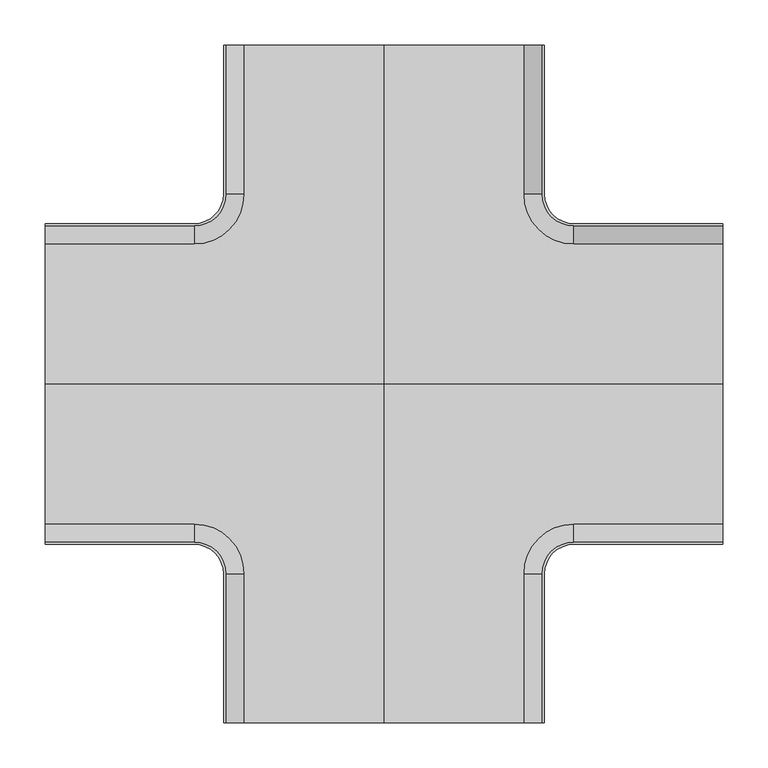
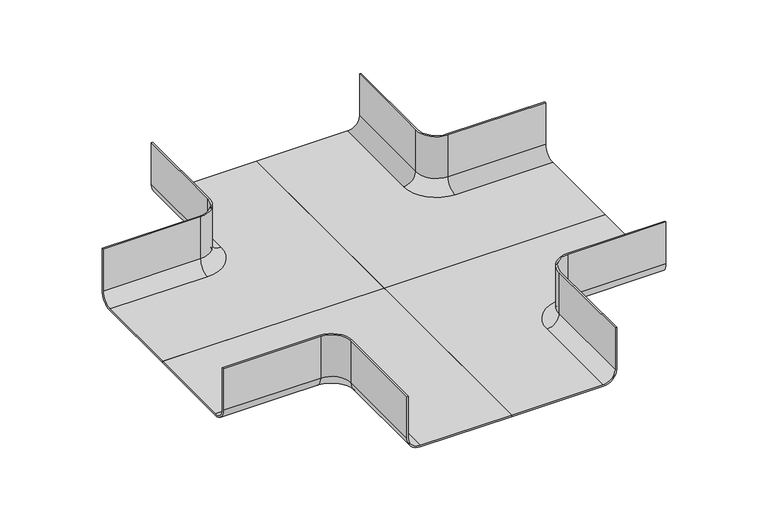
"""IFC4 building model written with IfcOpenShell, lengths in millimetres: cable carrier fitting geometry, CCT_Hyperline_FBTR-CRS_Ответвитель крестообразный пластиковый : Ответвитель крестообразный пластиковый."""

from ifc_helpers import new_model, si_unit, point, frame, origin, place, context, project, spatial, polyline, circle_curve, ellipse_curve, trimmed, source, transform, mapped, element, save
from ifc_brep_helpers import plane_surface, cylinder_surface, revolved_surface, advanced_brep


def cable_carrier_fitting_25f01132(model_context):
    return source(origin(), model_context, "Body", "AdvancedBrep", [
        advanced_brep(
        [(-375.0, -177.54, -25.0), (-375.0, -177.54, 50.0), (-375.0, -175.0, 50.0), (-375.0, -175.0, -25.0), (-375.0, -155.0, -45.0), (-375.0, 0.0, -45.0), (-375.0, 0.0, -47.54), (-375.0, -155.0, -47.54), (-210.0, -155.0, -47.54), (-210.0, -177.54, -25.0), (-210.0, -175.0, -25.0), (-210.0, -155.0, -45.0), (-210.0, -175.0, 50.0), (-210.0, -177.54, 50.0), (-177.54, -210.0, 50.0), (-177.54, -375.0, 50.0), (-175.0, -375.0, 50.0), (-175.0, -210.0, 50.0), (-155.0, -210.0, -47.54), (-177.54, -210.0, -25.0), (-175.0, -210.0, -25.0), (-155.0, -210.0, -45.0), (0.0, -375.0, -47.54), (0.0, -375.0, -45.0), (-155.0, -375.0, -45.0), (-175.0, -375.0, -25.0), (-177.54, -375.0, -25.0), (-155.0, -375.0, -47.54), (0.0, 0.0, -45.0), (0.0, 0.0, -47.54)],
        [
            (0, 1),
            (1, 2),
            (2, 3),
            (3, 4, circle_curve(frame((-375.0, -155.0, -25.0), z_axis=(1.0, 0.0, 0.0), x_axis=(0.0, -1.0, 0.0)), 20.0)),
            (4, 5),
            (5, 6),
            (6, 7),
            (7, 0, circle_curve(frame((-375.0, -155.0, -25.0), z_axis=(-1.0, 0.0, 0.0), x_axis=(0.0, -1.0, 0.0)), 22.54)),
            (7, 8),
            (8, 9, circle_curve(frame((-210.0, -155.0, -25.0), z_axis=(-1.0, 0.0, 0.0), x_axis=(0.0, -1.0, 0.0)), 22.54)),
            (9, 0),
            (3, 10),
            (10, 11, circle_curve(frame((-210.0, -155.0, -25.0), z_axis=(1.0, 0.0, 0.0), x_axis=(0.0, -1.0, 0.0)), 20.0)),
            (11, 4),
            (2, 12),
            (12, 10),
            (1, 13),
            (13, 14, circle_curve(frame((-210.0, -210.0, 50.0), z_axis=(0.0, 0.0, -1.0), x_axis=(0.0, 1.0, 0.0)), 32.46)),
            (14, 15),
            (15, 16),
            (16, 17),
            (17, 12, circle_curve(frame((-210.0, -210.0, 50.0), z_axis=(0.0, 0.0, 1.0), x_axis=(0.0, 1.0, 0.0)), 35.0)),
            (9, 13),
            (8, 18, circle_curve(frame((-210.0, -210.0, -47.54), z_axis=(0.0, 0.0, -1.0), x_axis=(0.0, 1.0, 0.0)), 55.0)),
            (18, 19, circle_curve(frame((-155.0, -210.0, -25.0), z_axis=(0.0, 1.0, 0.0), x_axis=(-1.0, 0.0, 0.0)), 22.54)),
            (19, 9, circle_curve(frame((-210.0, -210.0, -25.0), z_axis=(0.0, 0.0, 1.0), x_axis=(0.0, 1.0, 0.0)), 32.46)),
            (10, 20, circle_curve(frame((-210.0, -210.0, -25.0), z_axis=(0.0, 0.0, -1.0), x_axis=(0.0, 1.0, 0.0)), 35.0)),
            (20, 21, circle_curve(frame((-155.0, -210.0, -25.0), z_axis=(0.0, -1.0, 0.0), x_axis=(-1.0, 0.0, 0.0)), 20.0)),
            (21, 11, circle_curve(frame((-210.0, -210.0, -45.0), z_axis=(0.0, 0.0, 1.0), x_axis=(0.0, 1.0, 0.0)), 55.0)),
            (17, 20),
            (19, 14),
            (22, 23),
            (23, 24),
            (24, 25, circle_curve(frame((-155.0, -375.0, -25.0), z_axis=(0.0, 1.0, 0.0), x_axis=(-1.0, 0.0, 0.0)), 20.0)),
            (25, 16),
            (15, 26),
            (26, 27, circle_curve(frame((-155.0, -375.0, -25.0), z_axis=(0.0, -1.0, 0.0), x_axis=(-1.0, 0.0, 0.0)), 22.54)),
            (27, 22),
            (26, 19),
            (18, 27),
            (20, 25),
            (24, 21),
            (23, 28),
            (28, 5),
            (6, 29),
            (29, 22),
            (28, 29),
        ],
        [
            plane_surface(frame((-375.0, -175.0, 0.0), z_axis=(-1.0, 0.0, 0.0), x_axis=(0.0, 0.0, 1.0))),
            cylinder_surface(frame((-375.0, -155.0, -25.0), z_axis=(-1.0, 0.0, 0.0), x_axis=(0.0, -1.0, 0.0)), 22.54),
            revolved_surface(polyline([(-210.0, -175.0, -25.0), (-375.0, -175.0, -25.0)]), (-375.0, -155.0, -25.0), (1.0, 0.0, 0.0)),
            plane_surface(frame((-375.0, -175.0, -25.0), z_axis=(0.0, 1.0, 0.0), x_axis=(1.0, 0.0, 0.0))),
            plane_surface(frame((-375.0, -175.0, 50.0), z_axis=(0.0, 0.0, 1.0), x_axis=(1.0, 0.0, 0.0))),
            plane_surface(frame((-375.0, -177.54, 50.0), z_axis=(0.0, -1.0, 0.0), x_axis=(1.0, 0.0, 0.0))),
            revolved_surface(trimmed(ellipse_curve(frame((-210.0, -155.0, -25.0), z_axis=(1.0, 0.0, 0.0), x_axis=(0.0, -1.0, 0.0)), 22.54, 22.54), [point((-210.0, -177.54, -25.0))], [point((-210.0, -155.0, -47.54))], True, "CARTESIAN"), (-210.0, -210.0, 0.0), (0.0, 0.0, 1.0)),
            revolved_surface(trimmed(ellipse_curve(frame((-210.0, -155.0, -25.0), z_axis=(-1.0, 0.0, 0.0), x_axis=(0.0, -1.0, 0.0)), 20.0, 20.0), [point((-210.0, -155.0, -45.0))], [point((-210.0, -175.0, -25.0))], True, "CARTESIAN"), (-210.0, -210.0, 0.0), (0.0, 0.0, 1.0)),
            cylinder_surface(frame((-210.0, -210.0, 0.0), z_axis=(0.0, 0.0, 1.0), x_axis=(0.0, 1.0, 0.0)), 35.0),
            revolved_surface(polyline([(-210.0, -177.54, 50.0), (-210.0, -177.54, -25.0)]), (-210.0, -210.0, 0.0), (0.0, 0.0, 1.0)),
            plane_surface(frame((-175.0, -375.0, 0.0), z_axis=(0.0, -1.0, 0.0), x_axis=(0.0, 0.0, 1.0))),
            cylinder_surface(frame((-155.0, -210.0, -25.0), z_axis=(0.0, 1.0, 0.0), x_axis=(-1.0, 0.0, 0.0)), 22.54),
            revolved_surface(polyline([(-175.0, -375.0, -25.0), (-175.0, -210.0, -25.0)]), (-155.0, -210.0, -25.0), (0.0, -1.0, 0.0)),
            plane_surface(frame((-175.0, -210.0, -25.0), z_axis=(1.0, 0.0, 0.0), x_axis=(0.0, -1.0, 0.0))),
            plane_surface(frame((-177.54, -210.0, 50.0), z_axis=(-1.0, 0.0, 0.0), x_axis=(0.0, -1.0, 0.0))),
            plane_surface(frame((0.0, -210.0, -45.0), z_axis=(0.0, 0.0, 1.0), x_axis=(0.0, 1.0, 0.0))),
            plane_surface(frame((0.0, -210.0, -47.54), z_axis=(0.0, 0.0, -1.0), x_axis=(0.0, -1.0, 0.0))),
            plane_surface(frame((-210.0, 0.0, -45.0), z_axis=(0.0, 1.0, 0.0), x_axis=(0.0, 0.0, -1.0))),
            plane_surface(frame((0.0, 0.0, -45.0), z_axis=(1.0, 0.0, 0.0), x_axis=(0.0, 0.0, -1.0))),
        ],
        [
            (0, [[1, 2, 3, 4, 5, 6, 7, 8]]),
            (1, [[9, 10, 11, -8]]),
            (2, [[12, 13, 14, -4]]),
            (3, [[15, 16, -12, -3]]),
            (4, [[17, 18, 19, 20, 21, 22, -15, -2]]),
            (5, [[-11, 23, -17, -1]]),
            (6, [[24, 25, 26, -10]]),
            (7, [[-13, 27, 28, 29]]),
            (8, [[-22, 30, -27, -16]]),
            (9, [[-23, -26, 31, -18]]),
            (10, [[32, 33, 34, 35, -20, 36, 37, 38]]),
            (11, [[-37, 39, -25, 40]]),
            (12, [[-28, 41, -34, 42]]),
            (13, [[-35, -41, -30, -21]]),
            (14, [[-31, -39, -36, -19]]),
            (15, [[43, 44, -5, -14, -29, -42, -33]]),
            (16, [[45, 46, -38, -40, -24, -9, -7]]),
            (17, [[47, -45, -6, -44]]),
            (18, [[-32, -46, -47, -43]]),
        ],
    ),
        advanced_brep(
        [(375.0, -177.54, -25.0), (375.0, -155.0, -47.54), (375.0, 0.0, -47.54), (375.0, 0.0, -45.0), (375.0, -155.0, -45.0), (375.0, -175.0, -25.0), (375.0, -175.0, 50.0), (375.0, -177.54, 50.0), (210.0, -177.54, -25.0), (210.0, -155.0, -47.54), (210.0, -155.0, -45.0), (210.0, -175.0, -25.0), (210.0, -175.0, 50.0), (175.0, -210.0, 50.0), (175.0, -375.0, 50.0), (177.54, -375.0, 50.0), (177.54, -210.0, 50.0), (210.0, -177.54, 50.0), (177.54, -210.0, -25.0), (155.0, -210.0, -47.54), (155.0, -210.0, -45.0), (175.0, -210.0, -25.0), (0.0, -375.0, -47.54), (155.0, -375.0, -47.54), (177.54, -375.0, -25.0), (175.0, -375.0, -25.0), (155.0, -375.0, -45.0), (0.0, -375.0, -45.0), (0.0, 0.0, -45.0), (0.0, 0.0, -47.54)],
        [
            (0, 1, circle_curve(frame((375.0, -155.0, -25.0), z_axis=(1.0, 0.0, 0.0), x_axis=(0.0, -1.0, 0.0)), 22.54)),
            (1, 2),
            (2, 3),
            (3, 4),
            (4, 5, circle_curve(frame((375.0, -155.0, -25.0), z_axis=(-1.0, 0.0, 0.0), x_axis=(0.0, -1.0, 0.0)), 20.0)),
            (5, 6),
            (6, 7),
            (7, 0),
            (0, 8),
            (8, 9, circle_curve(frame((210.0, -155.0, -25.0), z_axis=(1.0, 0.0, 0.0), x_axis=(0.0, -1.0, 0.0)), 22.54)),
            (9, 1),
            (4, 10),
            (10, 11, circle_curve(frame((210.0, -155.0, -25.0), z_axis=(-1.0, 0.0, 0.0), x_axis=(0.0, -1.0, 0.0)), 20.0)),
            (11, 5),
            (11, 12),
            (12, 6),
            (12, 13, circle_curve(frame((210.0, -210.0, 50.0), z_axis=(0.0, 0.0, 1.0), x_axis=(0.0, 1.0, 0.0)), 35.0)),
            (13, 14),
            (14, 15),
            (15, 16),
            (16, 17, circle_curve(frame((210.0, -210.0, 50.0), z_axis=(0.0, 0.0, -1.0), x_axis=(0.0, 1.0, 0.0)), 32.46)),
            (17, 7),
            (17, 8),
            (8, 18, circle_curve(frame((210.0, -210.0, -25.0), z_axis=(0.0, 0.0, 1.0), x_axis=(0.0, 1.0, 0.0)), 32.46)),
            (18, 19, circle_curve(frame((155.0, -210.0, -25.0), z_axis=(0.0, 1.0, 0.0), x_axis=(1.0, 0.0, 0.0)), 22.54)),
            (19, 9, circle_curve(frame((210.0, -210.0, -47.54), z_axis=(0.0, 0.0, -1.0), x_axis=(0.0, 1.0, 0.0)), 55.0)),
            (10, 20, circle_curve(frame((210.0, -210.0, -45.0), z_axis=(0.0, 0.0, 1.0), x_axis=(0.0, 1.0, 0.0)), 55.0)),
            (20, 21, circle_curve(frame((155.0, -210.0, -25.0), z_axis=(0.0, -1.0, 0.0), x_axis=(1.0, 0.0, 0.0)), 20.0)),
            (21, 11, circle_curve(frame((210.0, -210.0, -25.0), z_axis=(0.0, 0.0, -1.0), x_axis=(0.0, 1.0, 0.0)), 35.0)),
            (21, 13),
            (16, 18),
            (22, 23),
            (23, 24, circle_curve(frame((155.0, -375.0, -25.0), z_axis=(0.0, -1.0, 0.0), x_axis=(1.0, 0.0, 0.0)), 22.54)),
            (24, 15),
            (14, 25),
            (25, 26, circle_curve(frame((155.0, -375.0, -25.0), z_axis=(0.0, 1.0, 0.0), x_axis=(1.0, 0.0, 0.0)), 20.0)),
            (26, 27),
            (27, 22),
            (23, 19),
            (18, 24),
            (20, 26),
            (25, 21),
            (3, 28),
            (28, 27),
            (22, 29),
            (29, 2),
            (29, 28),
        ],
        [
            plane_surface(frame((375.0, -175.0, 0.0), z_axis=(1.0, 0.0, 0.0), x_axis=(0.0, 0.0, 1.0))),
            cylinder_surface(frame((375.0, -155.0, -25.0), z_axis=(1.0, 0.0, 0.0), x_axis=(0.0, -1.0, 0.0)), 22.54),
            revolved_surface(polyline([(210.0, -175.0, -25.0), (375.0, -175.0, -25.0)]), (375.0, -155.0, -25.0), (-1.0, 0.0, 0.0)),
            plane_surface(frame((375.0, -175.0, -25.0), z_axis=(0.0, 1.0, 0.0), x_axis=(-1.0, 0.0, 0.0))),
            plane_surface(frame((375.0, -175.0, 50.0), z_axis=(0.0, 0.0, 1.0), x_axis=(-1.0, 0.0, 0.0))),
            plane_surface(frame((375.0, -177.54, 50.0), z_axis=(0.0, -1.0, 0.0), x_axis=(-1.0, 0.0, 0.0))),
            revolved_surface(trimmed(ellipse_curve(frame((210.0, -155.0, -25.0), z_axis=(1.0, 0.0, 0.0), x_axis=(0.0, -1.0, 0.0)), 22.54, 22.54), [point((210.0, -177.54, -25.0))], [point((210.0, -155.0, -47.54))], True, "CARTESIAN"), (210.0, -210.0, 0.0), (0.0, 0.0, 1.0)),
            revolved_surface(trimmed(ellipse_curve(frame((210.0, -155.0, -25.0), z_axis=(-1.0, 0.0, 0.0), x_axis=(0.0, -1.0, 0.0)), 20.0, 20.0), [point((210.0, -155.0, -45.0))], [point((210.0, -175.0, -25.0))], True, "CARTESIAN"), (210.0, -210.0, 0.0), (0.0, 0.0, 1.0)),
            cylinder_surface(frame((210.0, -210.0, 0.0), z_axis=(0.0, 0.0, 1.0), x_axis=(0.0, 1.0, 0.0)), 35.0),
            revolved_surface(polyline([(210.0, -177.54, 50.0), (210.0, -177.54, -25.0)]), (210.0, -210.0, 0.0), (0.0, 0.0, 1.0)),
            plane_surface(frame((175.0, -375.0, 0.0), z_axis=(0.0, -1.0, 0.0), x_axis=(0.0, 0.0, 1.0))),
            cylinder_surface(frame((155.0, -210.0, -25.0), z_axis=(0.0, 1.0, 0.0), x_axis=(1.0, 0.0, 0.0)), 22.54),
            revolved_surface(polyline([(175.0, -375.0, -25.0), (175.0, -210.0, -25.0)]), (155.0, -210.0, -25.0), (0.0, -1.0, 0.0)),
            plane_surface(frame((175.0, -210.0, -25.0), z_axis=(-1.0, 0.0, 0.0), x_axis=(0.0, -1.0, 0.0))),
            plane_surface(frame((177.54, -210.0, 50.0), z_axis=(1.0, 0.0, 0.0), x_axis=(0.0, -1.0, 0.0))),
            plane_surface(frame((0.0, -210.0, -45.0), z_axis=(0.0, 0.0, 1.0), x_axis=(0.0, 1.0, 0.0))),
            plane_surface(frame((0.0, -210.0, -47.54), z_axis=(0.0, 0.0, -1.0), x_axis=(0.0, -1.0, 0.0))),
            plane_surface(frame((210.0, 0.0, -45.0), z_axis=(0.0, 1.0, 0.0), x_axis=(0.0, 0.0, -1.0))),
            plane_surface(frame((0.0, 0.0, -45.0), z_axis=(-1.0, 0.0, 0.0), x_axis=(0.0, 0.0, -1.0))),
        ],
        [
            (0, [[1, 2, 3, 4, 5, 6, 7, 8]]),
            (1, [[-1, 9, 10, 11]]),
            (2, [[-5, 12, 13, 14]]),
            (3, [[-6, -14, 15, 16]]),
            (4, [[-7, -16, 17, 18, 19, 20, 21, 22]]),
            (5, [[-8, -22, 23, -9]]),
            (6, [[-10, 24, 25, 26]]),
            (7, [[27, 28, 29, -13]]),
            (8, [[-15, -29, 30, -17]]),
            (9, [[-21, 31, -24, -23]]),
            (10, [[32, 33, 34, -19, 35, 36, 37, 38]]),
            (11, [[39, -25, 40, -33]]),
            (12, [[41, -36, 42, -28]]),
            (13, [[-18, -30, -42, -35]]),
            (14, [[-20, -34, -40, -31]]),
            (15, [[-37, -41, -27, -12, -4, 43, 44]]),
            (16, [[-2, -11, -26, -39, -32, 45, 46]]),
            (17, [[-43, -3, -46, 47]]),
            (18, [[-44, -47, -45, -38]]),
        ],
    ),
        advanced_brep(
        [(-375.0, 177.54, -25.0), (-375.0, 155.0, -47.54), (-375.0, 0.0, -47.54), (-375.0, 0.0, -45.0), (-375.0, 155.0, -45.0), (-375.0, 175.0, -25.0), (-375.0, 175.0, 50.0), (-375.0, 177.54, 50.0), (-210.0, 177.54, -25.0), (-210.0, 155.0, -47.54), (-210.0, 155.0, -45.0), (-210.0, 175.0, -25.0), (-210.0, 175.0, 50.0), (-175.0, 210.0, 50.0), (-175.0, 375.0, 50.0), (-177.54, 375.0, 50.0), (-177.54, 210.0, 50.0), (-210.0, 177.54, 50.0), (-177.54, 210.0, -25.0), (-155.0, 210.0, -47.54), (-155.0, 210.0, -45.0), (-175.0, 210.0, -25.0), (0.0, 375.0, -47.54), (-155.0, 375.0, -47.54), (-177.54, 375.0, -25.0), (-175.0, 375.0, -25.0), (-155.0, 375.0, -45.0), (0.0, 375.0, -45.0), (0.0, 0.0, -45.0), (0.0, 0.0, -47.54)],
        [
            (0, 1, circle_curve(frame((-375.0, 155.0, -25.0), z_axis=(-1.0, 0.0, 0.0), x_axis=(0.0, 1.0, 0.0)), 22.54)),
            (1, 2),
            (2, 3),
            (3, 4),
            (4, 5, circle_curve(frame((-375.0, 155.0, -25.0), z_axis=(1.0, 0.0, 0.0), x_axis=(0.0, 1.0, 0.0)), 20.0)),
            (5, 6),
            (6, 7),
            (7, 0),
            (0, 8),
            (8, 9, circle_curve(frame((-210.0, 155.0, -25.0), z_axis=(-1.0, 0.0, 0.0), x_axis=(0.0, 1.0, 0.0)), 22.54)),
            (9, 1),
            (4, 10),
            (10, 11, circle_curve(frame((-210.0, 155.0, -25.0), z_axis=(1.0, 0.0, 0.0), x_axis=(0.0, 1.0, 0.0)), 20.0)),
            (11, 5),
            (11, 12),
            (12, 6),
            (12, 13, circle_curve(frame((-210.0, 210.0, 50.0), z_axis=(0.0, 0.0, 1.0), x_axis=(0.0, -1.0, 0.0)), 35.0)),
            (13, 14),
            (14, 15),
            (15, 16),
            (16, 17, circle_curve(frame((-210.0, 210.0, 50.0), z_axis=(0.0, 0.0, -1.0), x_axis=(0.0, -1.0, 0.0)), 32.46)),
            (17, 7),
            (17, 8),
            (8, 18, circle_curve(frame((-210.0, 210.0, -25.0), z_axis=(0.0, 0.0, 1.0), x_axis=(0.0, -1.0, 0.0)), 32.46)),
            (18, 19, circle_curve(frame((-155.0, 210.0, -25.0), z_axis=(0.0, -1.0, 0.0), x_axis=(-1.0, 0.0, 0.0)), 22.54)),
            (19, 9, circle_curve(frame((-210.0, 210.0, -47.54), z_axis=(0.0, 0.0, -1.0), x_axis=(0.0, -1.0, 0.0)), 55.0)),
            (10, 20, circle_curve(frame((-210.0, 210.0, -45.0), z_axis=(0.0, 0.0, 1.0), x_axis=(0.0, -1.0, 0.0)), 55.0)),
            (20, 21, circle_curve(frame((-155.0, 210.0, -25.0), z_axis=(0.0, 1.0, 0.0), x_axis=(-1.0, 0.0, 0.0)), 20.0)),
            (21, 11, circle_curve(frame((-210.0, 210.0, -25.0), z_axis=(0.0, 0.0, -1.0), x_axis=(0.0, -1.0, 0.0)), 35.0)),
            (21, 13),
            (16, 18),
            (22, 23),
            (23, 24, circle_curve(frame((-155.0, 375.0, -25.0), z_axis=(0.0, 1.0, 0.0), x_axis=(-1.0, 0.0, 0.0)), 22.54)),
            (24, 15),
            (14, 25),
            (25, 26, circle_curve(frame((-155.0, 375.0, -25.0), z_axis=(0.0, -1.0, 0.0), x_axis=(-1.0, 0.0, 0.0)), 20.0)),
            (26, 27),
            (27, 22),
            (23, 19),
            (18, 24),
            (20, 26),
            (25, 21),
            (3, 28),
            (28, 27),
            (22, 29),
            (29, 2),
            (29, 28),
        ],
        [
            plane_surface(frame((-375.0, 175.0, 0.0), z_axis=(-1.0, 0.0, 0.0), x_axis=(0.0, 0.0, 1.0))),
            cylinder_surface(frame((-375.0, 155.0, -25.0), z_axis=(-1.0, 0.0, 0.0), x_axis=(0.0, 1.0, 0.0)), 22.54),
            revolved_surface(polyline([(-210.0, 175.0, -25.0), (-375.0, 175.0, -25.0)]), (-375.0, 155.0, -25.0), (1.0, 0.0, 0.0)),
            plane_surface(frame((-375.0, 175.0, -25.0), z_axis=(0.0, -1.0, 0.0), x_axis=(1.0, 0.0, 0.0))),
            plane_surface(frame((-375.0, 175.0, 50.0), z_axis=(0.0, 0.0, 1.0), x_axis=(1.0, 0.0, 0.0))),
            plane_surface(frame((-375.0, 177.54, 50.0), z_axis=(0.0, 1.0, 0.0), x_axis=(1.0, 0.0, 0.0))),
            revolved_surface(trimmed(ellipse_curve(frame((-210.0, 155.0, -25.0), z_axis=(-1.0, 0.0, 0.0), x_axis=(0.0, 1.0, 0.0)), 22.54, 22.54), [point((-210.0, 177.54, -25.0))], [point((-210.0, 155.0, -47.54))], True, "CARTESIAN"), (-210.0, 210.0, 0.0), (0.0, 0.0, 1.0)),
            revolved_surface(trimmed(ellipse_curve(frame((-210.0, 155.0, -25.0), z_axis=(1.0, 0.0, 0.0), x_axis=(0.0, 1.0, 0.0)), 20.0, 20.0), [point((-210.0, 155.0, -45.0))], [point((-210.0, 175.0, -25.0))], True, "CARTESIAN"), (-210.0, 210.0, 0.0), (0.0, 0.0, 1.0)),
            cylinder_surface(frame((-210.0, 210.0, 0.0), z_axis=(0.0, 0.0, 1.0), x_axis=(0.0, -1.0, 0.0)), 35.0),
            revolved_surface(polyline([(-210.0, 177.54, 50.0), (-210.0, 177.54, -25.0)]), (-210.0, 210.0, 0.0), (0.0, 0.0, 1.0)),
            plane_surface(frame((-175.0, 375.0, 0.0), z_axis=(0.0, 1.0, 0.0), x_axis=(0.0, 0.0, 1.0))),
            cylinder_surface(frame((-155.0, 210.0, -25.0), z_axis=(0.0, -1.0, 0.0), x_axis=(-1.0, 0.0, 0.0)), 22.54),
            revolved_surface(polyline([(-175.0, 375.0, -25.0), (-175.0, 210.0, -25.0)]), (-155.0, 210.0, -25.0), (0.0, 1.0, 0.0)),
            plane_surface(frame((-175.0, 210.0, -25.0), z_axis=(1.0, 0.0, 0.0), x_axis=(0.0, 1.0, 0.0))),
            plane_surface(frame((-177.54, 210.0, 50.0), z_axis=(-1.0, 0.0, 0.0), x_axis=(0.0, 1.0, 0.0))),
            plane_surface(frame((0.0, 210.0, -45.0), z_axis=(0.0, 0.0, 1.0), x_axis=(0.0, -1.0, 0.0))),
            plane_surface(frame((0.0, 210.0, -47.54), z_axis=(0.0, 0.0, -1.0), x_axis=(0.0, 1.0, 0.0))),
            plane_surface(frame((-210.0, 0.0, -45.0), z_axis=(0.0, -1.0, 0.0), x_axis=(0.0, 0.0, -1.0))),
            plane_surface(frame((0.0, 0.0, -45.0), z_axis=(1.0, 0.0, 0.0), x_axis=(0.0, 0.0, -1.0))),
        ],
        [
            (0, [[1, 2, 3, 4, 5, 6, 7, 8]]),
            (1, [[-1, 9, 10, 11]]),
            (2, [[-5, 12, 13, 14]]),
            (3, [[-6, -14, 15, 16]]),
            (4, [[-7, -16, 17, 18, 19, 20, 21, 22]]),
            (5, [[-8, -22, 23, -9]]),
            (6, [[-10, 24, 25, 26]]),
            (7, [[27, 28, 29, -13]]),
            (8, [[-15, -29, 30, -17]]),
            (9, [[-21, 31, -24, -23]]),
            (10, [[32, 33, 34, -19, 35, 36, 37, 38]]),
            (11, [[39, -25, 40, -33]]),
            (12, [[41, -36, 42, -28]]),
            (13, [[-18, -30, -42, -35]]),
            (14, [[-20, -34, -40, -31]]),
            (15, [[-37, -41, -27, -12, -4, 43, 44]]),
            (16, [[-2, -11, -26, -39, -32, 45, 46]]),
            (17, [[-43, -3, -46, 47]]),
            (18, [[-44, -47, -45, -38]]),
        ],
    ),
        advanced_brep(
        [(375.0, 177.54, -25.0), (375.0, 177.54, 50.0), (375.0, 175.0, 50.0), (375.0, 175.0, -25.0), (375.0, 155.0, -45.0), (375.0, 0.0, -45.0), (375.0, 0.0, -47.54), (375.0, 155.0, -47.54), (210.0, 155.0, -47.54), (210.0, 177.54, -25.0), (210.0, 175.0, -25.0), (210.0, 155.0, -45.0), (210.0, 175.0, 50.0), (210.0, 177.54, 50.0), (177.54, 210.0, 50.0), (177.54, 375.0, 50.0), (175.0, 375.0, 50.0), (175.0, 210.0, 50.0), (155.0, 210.0, -47.54), (177.54, 210.0, -25.0), (175.0, 210.0, -25.0), (155.0, 210.0, -45.0), (0.0, 375.0, -47.54), (0.0, 375.0, -45.0), (155.0, 375.0, -45.0), (175.0, 375.0, -25.0), (177.54, 375.0, -25.0), (155.0, 375.0, -47.54), (0.0, 0.0, -45.0), (0.0, 0.0, -47.54)],
        [
            (0, 1),
            (1, 2),
            (2, 3),
            (3, 4, circle_curve(frame((375.0, 155.0, -25.0), z_axis=(-1.0, 0.0, 0.0), x_axis=(0.0, 1.0, 0.0)), 20.0)),
            (4, 5),
            (5, 6),
            (6, 7),
            (7, 0, circle_curve(frame((375.0, 155.0, -25.0), z_axis=(1.0, 0.0, 0.0), x_axis=(0.0, 1.0, 0.0)), 22.54)),
            (7, 8),
            (8, 9, circle_curve(frame((210.0, 155.0, -25.0), z_axis=(1.0, 0.0, 0.0), x_axis=(0.0, 1.0, 0.0)), 22.54)),
            (9, 0),
            (3, 10),
            (10, 11, circle_curve(frame((210.0, 155.0, -25.0), z_axis=(-1.0, 0.0, 0.0), x_axis=(0.0, 1.0, 0.0)), 20.0)),
            (11, 4),
            (2, 12),
            (12, 10),
            (1, 13),
            (13, 14, circle_curve(frame((210.0, 210.0, 50.0), z_axis=(0.0, 0.0, -1.0), x_axis=(0.0, -1.0, 0.0)), 32.46)),
            (14, 15),
            (15, 16),
            (16, 17),
            (17, 12, circle_curve(frame((210.0, 210.0, 50.0), z_axis=(0.0, 0.0, 1.0), x_axis=(0.0, -1.0, 0.0)), 35.0)),
            (9, 13),
            (8, 18, circle_curve(frame((210.0, 210.0, -47.54), z_axis=(0.0, 0.0, -1.0), x_axis=(0.0, -1.0, 0.0)), 55.0)),
            (18, 19, circle_curve(frame((155.0, 210.0, -25.0), z_axis=(0.0, -1.0, 0.0), x_axis=(1.0, 0.0, 0.0)), 22.54)),
            (19, 9, circle_curve(frame((210.0, 210.0, -25.0), z_axis=(0.0, 0.0, 1.0), x_axis=(0.0, -1.0, 0.0)), 32.46)),
            (10, 20, circle_curve(frame((210.0, 210.0, -25.0), z_axis=(0.0, 0.0, -1.0), x_axis=(0.0, -1.0, 0.0)), 35.0)),
            (20, 21, circle_curve(frame((155.0, 210.0, -25.0), z_axis=(0.0, 1.0, 0.0), x_axis=(1.0, 0.0, 0.0)), 20.0)),
            (21, 11, circle_curve(frame((210.0, 210.0, -45.0), z_axis=(0.0, 0.0, 1.0), x_axis=(0.0, -1.0, 0.0)), 55.0)),
            (17, 20),
            (19, 14),
            (22, 23),
            (23, 24),
            (24, 25, circle_curve(frame((155.0, 375.0, -25.0), z_axis=(0.0, -1.0, 0.0), x_axis=(1.0, 0.0, 0.0)), 20.0)),
            (25, 16),
            (15, 26),
            (26, 27, circle_curve(frame((155.0, 375.0, -25.0), z_axis=(0.0, 1.0, 0.0), x_axis=(1.0, 0.0, 0.0)), 22.54)),
            (27, 22),
            (26, 19),
            (18, 27),
            (20, 25),
            (24, 21),
            (23, 28),
            (28, 5),
            (6, 29),
            (29, 22),
            (28, 29),
        ],
        [
            plane_surface(frame((375.0, 175.0, 0.0), z_axis=(1.0, 0.0, 0.0), x_axis=(0.0, 0.0, 1.0))),
            cylinder_surface(frame((375.0, 155.0, -25.0), z_axis=(1.0, 0.0, 0.0), x_axis=(0.0, 1.0, 0.0)), 22.54),
            revolved_surface(polyline([(210.0, 175.0, -25.0), (375.0, 175.0, -25.0)]), (375.0, 155.0, -25.0), (-1.0, 0.0, 0.0)),
            plane_surface(frame((375.0, 175.0, -25.0), z_axis=(0.0, -1.0, 0.0), x_axis=(-1.0, 0.0, 0.0))),
            plane_surface(frame((375.0, 175.0, 50.0), z_axis=(0.0, 0.0, 1.0), x_axis=(-1.0, 0.0, 0.0))),
            plane_surface(frame((375.0, 177.54, 50.0), z_axis=(0.0, 1.0, 0.0), x_axis=(-1.0, 0.0, 0.0))),
            revolved_surface(trimmed(ellipse_curve(frame((210.0, 155.0, -25.0), z_axis=(-1.0, 0.0, 0.0), x_axis=(0.0, 1.0, 0.0)), 22.54, 22.54), [point((210.0, 177.54, -25.0))], [point((210.0, 155.0, -47.54))], True, "CARTESIAN"), (210.0, 210.0, 0.0), (0.0, 0.0, 1.0)),
            revolved_surface(trimmed(ellipse_curve(frame((210.0, 155.0, -25.0), z_axis=(1.0, 0.0, 0.0), x_axis=(0.0, 1.0, 0.0)), 20.0, 20.0), [point((210.0, 155.0, -45.0))], [point((210.0, 175.0, -25.0))], True, "CARTESIAN"), (210.0, 210.0, 0.0), (0.0, 0.0, 1.0)),
            cylinder_surface(frame((210.0, 210.0, 0.0), z_axis=(0.0, 0.0, 1.0), x_axis=(0.0, -1.0, 0.0)), 35.0),
            revolved_surface(polyline([(210.0, 177.54, 50.0), (210.0, 177.54, -25.0)]), (210.0, 210.0, 0.0), (0.0, 0.0, 1.0)),
            plane_surface(frame((175.0, 375.0, 0.0), z_axis=(0.0, 1.0, 0.0), x_axis=(0.0, 0.0, 1.0))),
            cylinder_surface(frame((155.0, 210.0, -25.0), z_axis=(0.0, -1.0, 0.0), x_axis=(1.0, 0.0, 0.0)), 22.54),
            revolved_surface(polyline([(175.0, 375.0, -25.0), (175.0, 210.0, -25.0)]), (155.0, 210.0, -25.0), (0.0, 1.0, 0.0)),
            plane_surface(frame((175.0, 210.0, -25.0), z_axis=(-1.0, 0.0, 0.0), x_axis=(0.0, 1.0, 0.0))),
            plane_surface(frame((177.54, 210.0, 50.0), z_axis=(1.0, 0.0, 0.0), x_axis=(0.0, 1.0, 0.0))),
            plane_surface(frame((0.0, 210.0, -45.0), z_axis=(0.0, 0.0, 1.0), x_axis=(0.0, -1.0, 0.0))),
            plane_surface(frame((0.0, 210.0, -47.54), z_axis=(0.0, 0.0, -1.0), x_axis=(0.0, 1.0, 0.0))),
            plane_surface(frame((210.0, 0.0, -45.0), z_axis=(0.0, -1.0, 0.0), x_axis=(0.0, 0.0, -1.0))),
            plane_surface(frame((0.0, 0.0, -45.0), z_axis=(-1.0, 0.0, 0.0), x_axis=(0.0, 0.0, -1.0))),
        ],
        [
            (0, [[1, 2, 3, 4, 5, 6, 7, 8]]),
            (1, [[9, 10, 11, -8]]),
            (2, [[12, 13, 14, -4]]),
            (3, [[15, 16, -12, -3]]),
            (4, [[17, 18, 19, 20, 21, 22, -15, -2]]),
            (5, [[-11, 23, -17, -1]]),
            (6, [[24, 25, 26, -10]]),
            (7, [[-13, 27, 28, 29]]),
            (8, [[-22, 30, -27, -16]]),
            (9, [[-23, -26, 31, -18]]),
            (10, [[32, 33, 34, 35, -20, 36, 37, 38]]),
            (11, [[-37, 39, -25, 40]]),
            (12, [[-28, 41, -34, 42]]),
            (13, [[-35, -41, -30, -21]]),
            (14, [[-31, -39, -36, -19]]),
            (15, [[43, 44, -5, -14, -29, -42, -33]]),
            (16, [[45, 46, -38, -40, -24, -9, -7]]),
            (17, [[47, -45, -6, -44]]),
            (18, [[-32, -46, -47, -43]]),
        ],
    ),
    ])


if __name__ == "__main__":
    model = new_model("IFC4")
    model_context = context("Model", 3, world=origin())
    ifc_project = project(units=[si_unit("LENGTHUNIT", "METRE", prefix="MILLI")], contexts=[model_context])
    site = spatial("IfcSite", under=ifc_project)
    building = spatial("IfcBuilding", under=site)
    placement = place(None, origin())
    cable_carrier_fitting_shape = cable_carrier_fitting_25f01132(model_context)
    element("IfcCableCarrierFitting", 1, ObjectType="CCT_Hyperline_FBTR-CRS_Ответвитель крестообразный пластиковый : Ответвитель крестообразный пластиковый", at=placement, inside=building, context=model_context, shape_type="MappedRepresentation", body=[
        mapped(cable_carrier_fitting_shape, transform((0.0, 0.0, 0.0), x_axis=(1.0, 0.0, 0.0), y_axis=(0.0, 1.0, 0.0), z_axis=(0.0, 0.0, 1.0))),
    ])
    save(model, "model.ifc")
